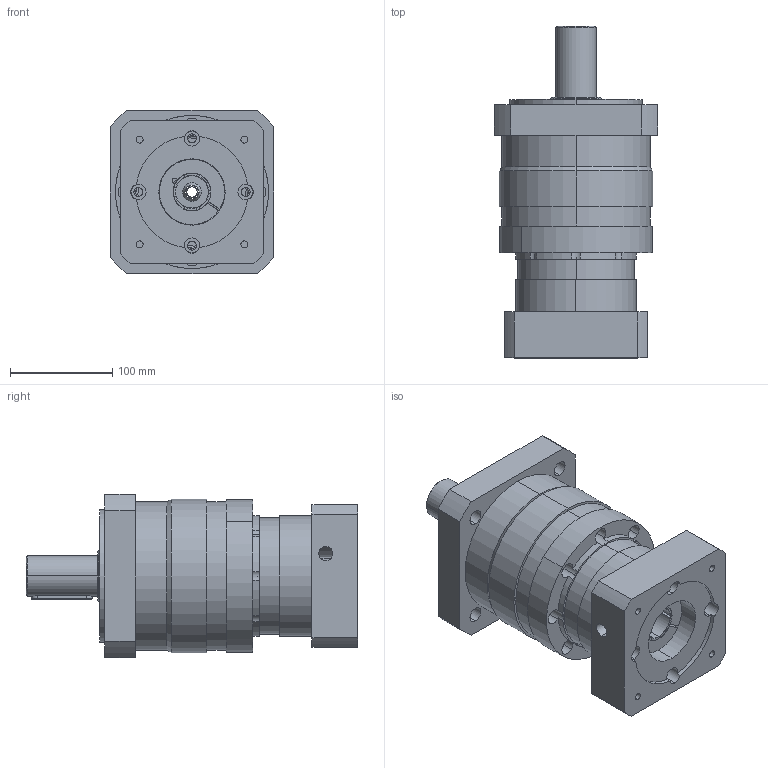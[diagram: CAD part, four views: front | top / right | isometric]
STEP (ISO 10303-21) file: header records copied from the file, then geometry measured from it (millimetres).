
FILE_DESCRIPTION (( 'STEP AP214' ), '1' );
FILE_NAME ('150媼撰源怀堤俋褲.STEP', '2017-04-27T05:13:42', ( '' ), ( '' ), 'SwSTEP 2.0', 'SolidWorks 2016', '' );
FILE_SCHEMA (( 'AUTOMOTIVE_DESIGN' ));
Length unit declared in the file: millimetre
Products named in the file (1): 150媼撰源怀堤俋褲
Bounding box: 160 x 325 x 160 mm (x, y, z)
Surface area: 263730.9 mm2 (no closed solid volume)
Topology: 0 solids, 16 shells, 189 faces, 581 edges, 403 vertices
Faces by surface type: cylinder 115, plane 50, cone 20, torus 4
Entity records: 9032 total; most frequent: CARTESIAN_POINT 1489, DIRECTION 1267, ORIENTED_EDGE 996, EDGE_CURVE 581, AXIS2_PLACEMENT_3D 517, VERTEX_POINT 403, CIRCLE 327, EDGE_LOOP 233
